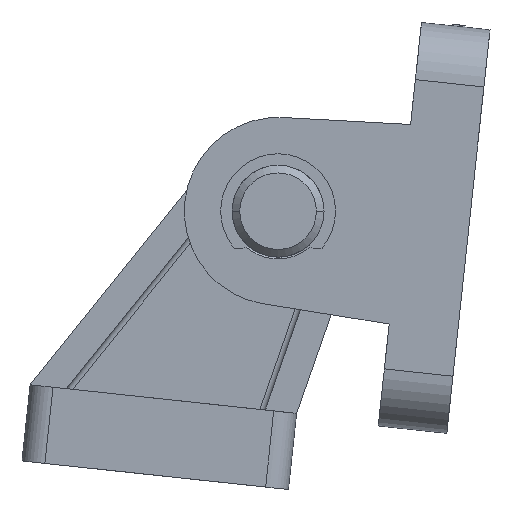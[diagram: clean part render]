
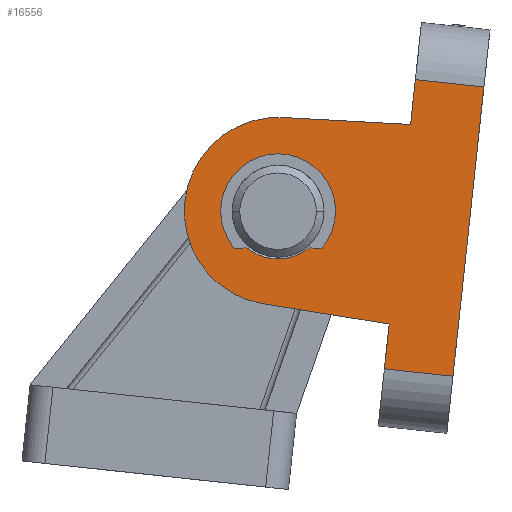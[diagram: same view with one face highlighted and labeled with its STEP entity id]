
A CAD part, front view. The second image highlights one B-rep face of the part: STEP entity #16556.
In plain terms, the highlighted planar face has unit normal (0, -1, 0).
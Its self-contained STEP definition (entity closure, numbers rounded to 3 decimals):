
#16243=CARTESIAN_POINT('Line Origine',(0.,-26.5,-16.053)) ;
#16247=CARTESIAN_POINT('Vertex',(0.,-26.5,-13.105)) ;
#16249=CARTESIAN_POINT('Vertex',(0.,-26.5,-19.)) ;
#16317=CARTESIAN_POINT('Vertex',(0.,-26.5,19.)) ;
#16320=CARTESIAN_POINT('Line Origine',(0.,-26.5,16.053)) ;
#16324=CARTESIAN_POINT('Vertex',(0.,-26.5,13.105)) ;
#16472=CARTESIAN_POINT('Vertex',(-9.,-26.5,19.)) ;
#16475=CARTESIAN_POINT('Line Origine',(-4.5,-26.5,19.)) ;
#16492=CARTESIAN_POINT('Axis2P3D Location',(0.,-26.5,19.)) ;
#16497=CARTESIAN_POINT('Line Origine',(8.321,-26.5,12.669)) ;
#16501=CARTESIAN_POINT('Vertex',(16.641,-26.5,12.233)) ;
#16504=CARTESIAN_POINT('Line Origine',(-9.,-26.5,0.)) ;
#16508=CARTESIAN_POINT('Vertex',(-9.,-26.5,-19.)) ;
#16511=CARTESIAN_POINT('Line Origine',(-4.5,-26.5,-19.)) ;
#16516=CARTESIAN_POINT('Line Origine',(8.321,-26.5,-12.669)) ;
#16520=CARTESIAN_POINT('Vertex',(16.641,-26.5,-12.233)) ;
#16523=CARTESIAN_POINT('Axis2P3D Location',(16.,-26.5,0.)) ;
#16538=CARTESIAN_POINT('Axis2P3D Location',(16.,-26.5,0.)) ;
#16542=CARTESIAN_POINT('Vertex',(22.25,-26.5,0.)) ;
#16544=CARTESIAN_POINT('Vertex',(9.75,-26.5,0.)) ;
#16547=CARTESIAN_POINT('Axis2P3D Location',(16.,-26.5,0.)) ;
#16244=DIRECTION('Vector Direction',(0.,0.,-1.)) ;
#16321=DIRECTION('Vector Direction',(0.,0.,-1.)) ;
#16476=DIRECTION('Vector Direction',(1.,0.,0.)) ;
#16493=DIRECTION('Axis2P3D Direction',(0.,1.,0.)) ;
#16494=DIRECTION('Axis2P3D XDirection',(0.,0.,-1.)) ;
#16498=DIRECTION('Vector Direction',(-0.999,0.,0.052)) ;
#16505=DIRECTION('Vector Direction',(0.,0.,-1.)) ;
#16512=DIRECTION('Vector Direction',(-1.,0.,0.)) ;
#16517=DIRECTION('Vector Direction',(-0.999,0.,-0.052)) ;
#16524=DIRECTION('Axis2P3D Direction',(0.,1.,0.)) ;
#16539=DIRECTION('Axis2P3D Direction',(0.,1.,0.)) ;
#16548=DIRECTION('Axis2P3D Direction',(0.,1.,0.)) ;
#16495=AXIS2_PLACEMENT_3D('Plane Axis2P3D',#16492,#16493,#16494) ;
#16525=AXIS2_PLACEMENT_3D('Circle Axis2P3D',#16523,#16524,$) ;
#16540=AXIS2_PLACEMENT_3D('Circle Axis2P3D',#16538,#16539,$) ;
#16549=AXIS2_PLACEMENT_3D('Circle Axis2P3D',#16547,#16548,$) ;
#16529=ORIENTED_EDGE('',*,*,#16503,.F.) ;
#16530=ORIENTED_EDGE('',*,*,#16326,.F.) ;
#16531=ORIENTED_EDGE('',*,*,#16479,.T.) ;
#16532=ORIENTED_EDGE('',*,*,#16510,.T.) ;
#16533=ORIENTED_EDGE('',*,*,#16515,.F.) ;
#16534=ORIENTED_EDGE('',*,*,#16251,.F.) ;
#16535=ORIENTED_EDGE('',*,*,#16522,.F.) ;
#16536=ORIENTED_EDGE('',*,*,#16527,.F.) ;
#16553=ORIENTED_EDGE('',*,*,#16546,.T.) ;
#16554=ORIENTED_EDGE('',*,*,#16551,.T.) ;
#16555=FACE_BOUND('',#16552,.T.) ;
#16245=VECTOR('Line Direction',#16244,1.) ;
#16322=VECTOR('Line Direction',#16321,1.) ;
#16477=VECTOR('Line Direction',#16476,1.) ;
#16499=VECTOR('Line Direction',#16498,1.) ;
#16506=VECTOR('Line Direction',#16505,1.) ;
#16513=VECTOR('Line Direction',#16512,1.) ;
#16518=VECTOR('Line Direction',#16517,1.) ;
#16556=ADVANCED_FACE('PartBody',(#16537,#16555),#16496,.F.) ;
#16526=CIRCLE('generated circle',#16525,12.25) ;
#16541=CIRCLE('generated circle',#16540,6.25) ;
#16550=CIRCLE('generated circle',#16549,6.25) ;
#16251=EDGE_CURVE('',#16248,#16250,#16246,.T.) ;
#16326=EDGE_CURVE('',#16318,#16325,#16323,.T.) ;
#16479=EDGE_CURVE('',#16318,#16473,#16478,.F.) ;
#16503=EDGE_CURVE('',#16325,#16502,#16500,.F.) ;
#16510=EDGE_CURVE('',#16473,#16509,#16507,.T.) ;
#16515=EDGE_CURVE('',#16250,#16509,#16514,.T.) ;
#16522=EDGE_CURVE('',#16521,#16248,#16519,.T.) ;
#16527=EDGE_CURVE('',#16502,#16521,#16526,.T.) ;
#16546=EDGE_CURVE('',#16543,#16545,#16541,.T.) ;
#16551=EDGE_CURVE('',#16545,#16543,#16550,.T.) ;
#16528=EDGE_LOOP('',(#16529,#16530,#16531,#16532,#16533,#16534,#16535,#16536)) ;
#16552=EDGE_LOOP('',(#16553,#16554)) ;
#16537=FACE_OUTER_BOUND('',#16528,.T.) ;
#16246=LINE('Line',#16243,#16245) ;
#16323=LINE('Line',#16320,#16322) ;
#16478=LINE('Line',#16475,#16477) ;
#16500=LINE('Line',#16497,#16499) ;
#16507=LINE('Line',#16504,#16506) ;
#16514=LINE('Line',#16511,#16513) ;
#16519=LINE('Line',#16516,#16518) ;
#16496=PLANE('',#16495) ;
#16248=VERTEX_POINT('',#16247) ;
#16250=VERTEX_POINT('',#16249) ;
#16318=VERTEX_POINT('',#16317) ;
#16325=VERTEX_POINT('',#16324) ;
#16473=VERTEX_POINT('',#16472) ;
#16502=VERTEX_POINT('',#16501) ;
#16509=VERTEX_POINT('',#16508) ;
#16521=VERTEX_POINT('',#16520) ;
#16543=VERTEX_POINT('',#16542) ;
#16545=VERTEX_POINT('',#16544) ;
